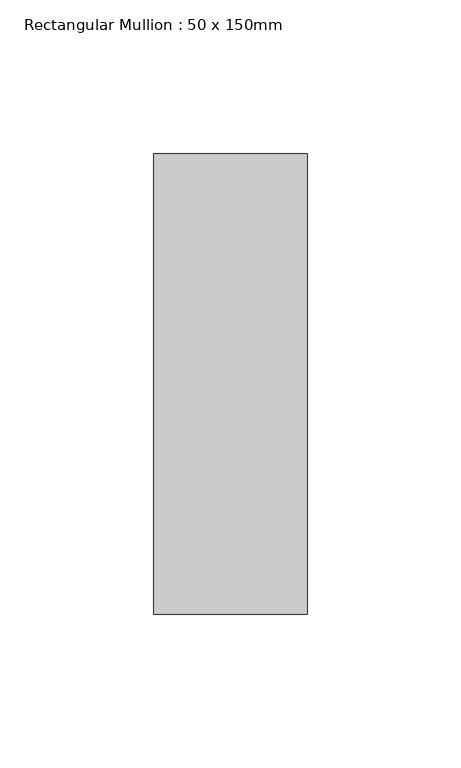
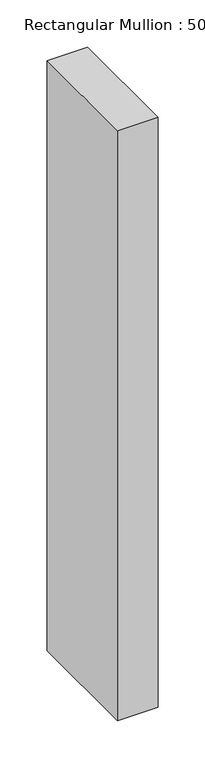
"""IFC4 building model written with IfcOpenShell, lengths in millimetres: member geometry, Rectangular Mullion : 50 x 150mm."""

from ifc_helpers import new_model, si_unit, frame, origin, place, context, project, spatial, polyline, outline, extrude, source, transform, mapped, element, save


def rectangular_mullion_50_x_150mm_6ac627af(model_context):
    return source(origin(), model_context, "Body", "SweptSolid", [
        extrude(outline(polyline([(0.0, 75.0), (0.0, -75.0), (-50.0, -75.0), (-50.0, 75.0), (0.0, 75.0)])), frame((0.0, 0.0, -766.2241464), z_axis=(0.0, 0.0, 1.0), x_axis=(1.0, 0.0, 0.0)), (0.0, 0.0, 1.0), 766.2241464),
    ])


if __name__ == "__main__":
    model = new_model("IFC4")
    model_context = context("Model", 3, world=origin())
    ifc_project = project(units=[si_unit("LENGTHUNIT", "METRE", prefix="MILLI")], contexts=[model_context])
    site = spatial("IfcSite", under=ifc_project)
    building = spatial("IfcBuilding", under=site)
    placement = place(None, origin())
    rectangular_mullion_50_x_150mm_shape = rectangular_mullion_50_x_150mm_6ac627af(model_context)
    element("IfcMember", 1, ObjectType="Rectangular Mullion : 50 x 150mm", at=placement, inside=building, context=model_context, shape_type="MappedRepresentation", body=[
        mapped(rectangular_mullion_50_x_150mm_shape, transform((0.0, 0.0, 0.0), x_axis=(1.0, 0.0, 0.0), y_axis=(0.0, 1.0, 0.0), z_axis=(0.0, 0.0, 1.0))),
    ])
    save(model, "model.ifc")
